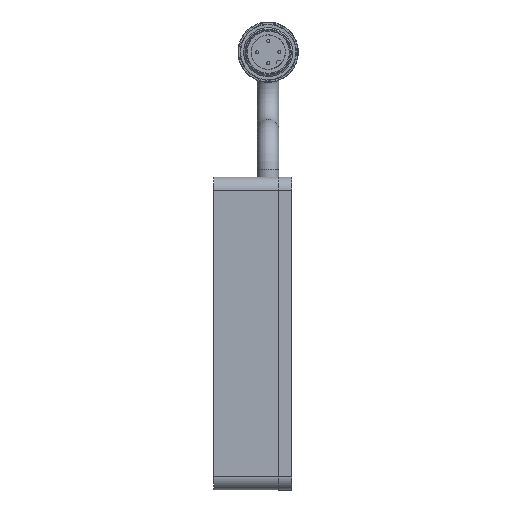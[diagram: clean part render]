
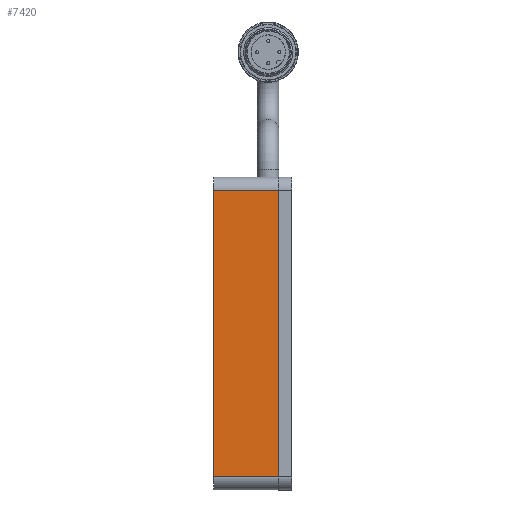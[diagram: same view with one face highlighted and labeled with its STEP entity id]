
A CAD part, left-side view. The second image highlights one B-rep face of the part: STEP entity #7420.
In plain terms, the highlighted planar face has unit normal (-1, 0, 0).
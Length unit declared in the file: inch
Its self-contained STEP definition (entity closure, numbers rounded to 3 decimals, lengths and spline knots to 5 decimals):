
#351 = CARTESIAN_POINT ( 'NONE',  ( -2.5, 0.3125, -1.375 ) ) ;
#358 = VERTEX_POINT ( 'NONE', #351 ) ;
#367 = VERTEX_POINT ( 'NONE', #4142 ) ;
#704 = LINE ( 'NONE', #7414, #9291 ) ;
#835 = CARTESIAN_POINT ( 'NONE',  ( -2.5, -0.3125, 1.375 ) ) ;
#926 = VERTEX_POINT ( 'NONE', #835 ) ;
#1237 = CARTESIAN_POINT ( 'NONE',  ( -2.5, 0.3125, 1.5 ) ) ;
#1423 = CARTESIAN_POINT ( 'NONE',  ( -2.5, 0.3125, 1.5 ) ) ;
#2256 = DIRECTION ( 'NONE',  ( 1., 0., 0. ) ) ;
#2328 = AXIS2_PLACEMENT_3D ( 'NONE', #1237, #2256, #8260 ) ;
#2356 = CARTESIAN_POINT ( 'NONE',  ( -2.5, 0.3125, 1.375 ) ) ;
#2385 = ORIENTED_EDGE ( 'NONE', *, *, #7196, .T. ) ;
#2520 = LINE ( 'NONE', #6869, #5409 ) ;
#3100 = VECTOR ( 'NONE', #5870, 39.37008 ) ;
#3371 = ORIENTED_EDGE ( 'NONE', *, *, #7668, .T. ) ;
#4142 = CARTESIAN_POINT ( 'NONE',  ( -2.5, -0.3125, -1.375 ) ) ;
#4564 = EDGE_LOOP ( 'NONE', ( #9163, #3371, #8256, #2385 ) ) ;
#4928 = FACE_OUTER_BOUND ( 'NONE', #4564, .T. ) ;
#5124 = DIRECTION ( 'NONE',  ( 0., 0., 1. ) ) ;
#5409 = VECTOR ( 'NONE', #6195, 39.37008 ) ;
#5686 = EDGE_CURVE ( 'NONE', #358, #7468, #9518, .T. ) ;
#5870 = DIRECTION ( 'NONE',  ( 0., -1., 0. ) ) ;
#6195 = DIRECTION ( 'NONE',  ( 0., 1., 0. ) ) ;
#6513 = DIRECTION ( 'NONE',  ( 0., 0., 1. ) ) ;
#6869 = CARTESIAN_POINT ( 'NONE',  ( -2.5, 0.3125, 1.375 ) ) ;
#7196 = EDGE_CURVE ( 'NONE', #926, #7468, #2520, .T. ) ;
#7374 = CARTESIAN_POINT ( 'NONE',  ( -2.5, 0.3125, -1.375 ) ) ;
#7414 = CARTESIAN_POINT ( 'NONE',  ( -2.5, -0.3125, 1.5 ) ) ;
#7420 = ADVANCED_FACE ( 'NONE', ( #4928 ), #7891, .F. ) ;
#7468 = VERTEX_POINT ( 'NONE', #2356 ) ;
#7668 = EDGE_CURVE ( 'NONE', #358, #367, #8053, .T. ) ;
#7891 = PLANE ( 'NONE',  #2328 ) ;
#8053 = LINE ( 'NONE', #7374, #3100 ) ;
#8120 = EDGE_CURVE ( 'NONE', #367, #926, #704, .T. ) ;
#8256 = ORIENTED_EDGE ( 'NONE', *, *, #8120, .T. ) ;
#8260 = DIRECTION ( 'NONE',  ( 0., 0., -1. ) ) ;
#9163 = ORIENTED_EDGE ( 'NONE', *, *, #5686, .F. ) ;
#9291 = VECTOR ( 'NONE', #5124, 39.37008 ) ;
#9518 = LINE ( 'NONE', #1423, #9551 ) ;
#9551 = VECTOR ( 'NONE', #6513, 39.37008 ) ;
